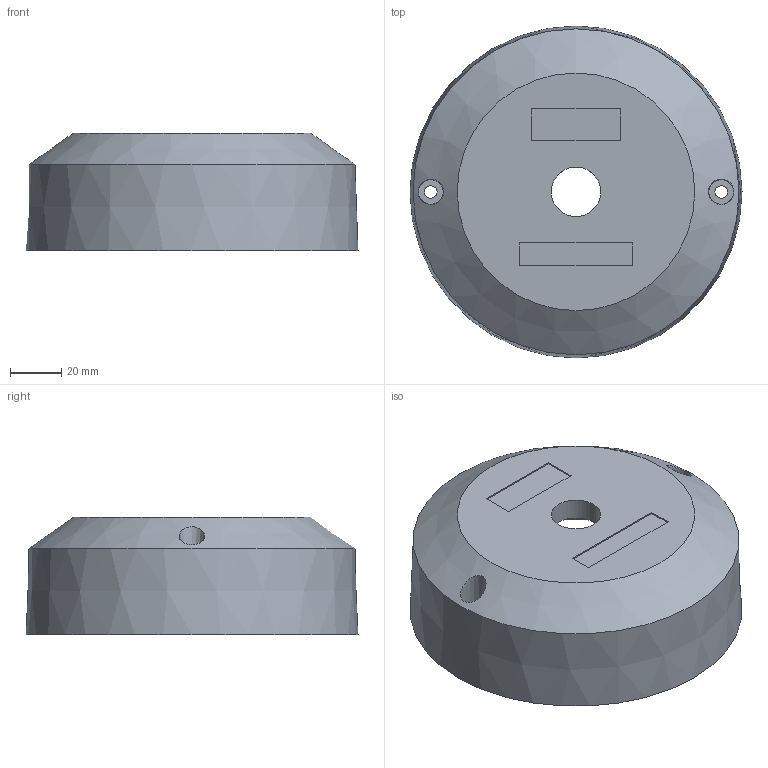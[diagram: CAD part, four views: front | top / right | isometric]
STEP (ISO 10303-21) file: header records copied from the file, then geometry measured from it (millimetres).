
FILE_DESCRIPTION(/* description */ (''),/* implementation_level */ '2;1');
FILE_NAME(/* name */ '\\SERVERB\PdfTecnico\Modelli 3D per sito internet\9-Coprimozzo\Estetica coprimozzo X34 .stp',/* time_stamp */ '2021-02-08T11:33:17+01:00',/* author */ ('w.trivella'),/* organization */ (''),/* preprocessor_version */ 'ST-DEVELOPER v18',/* originating_system */ 'Autodesk Inventor 2020',/* authorisation */ '');
FILE_SCHEMA (('AUTOMOTIVE_DESIGN { 1 0 10303 214 3 1 1 }'));
Length unit declared in the file: millimetre
Products named in the file (1): solo estetica tratta da 10971 
Bounding box: 130 x 130 x 46 mm (x, y, z)
Volume: 86045.8 mm3; surface area: 58464.9 mm2
Topology: 1 solids, 1 shells, 39 faces, 99 edges, 68 vertices
Faces by surface type: plane 16, cylinder 11, cone 8, bspline 4
Full cylindrical faces by diameter (mm): 4.9 x2, 19.4 x1
Entity records: 1700 total; most frequent: CARTESIAN_POINT 705, ORIENTED_EDGE 198, DIRECTION 183, EDGE_CURVE 99, AXIS2_PLACEMENT_3D 72, VERTEX_POINT 68, EDGE_LOOP 51, LINE 39
